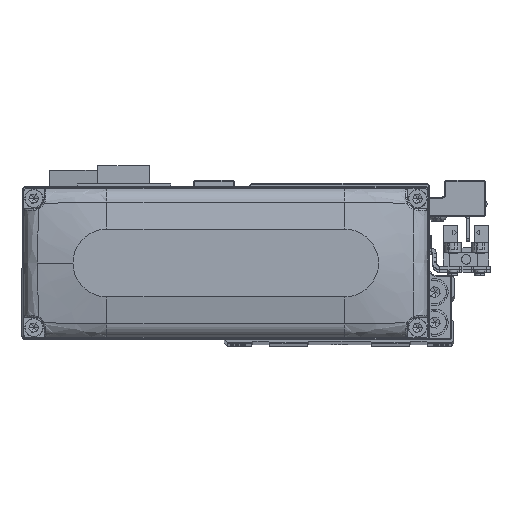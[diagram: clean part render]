
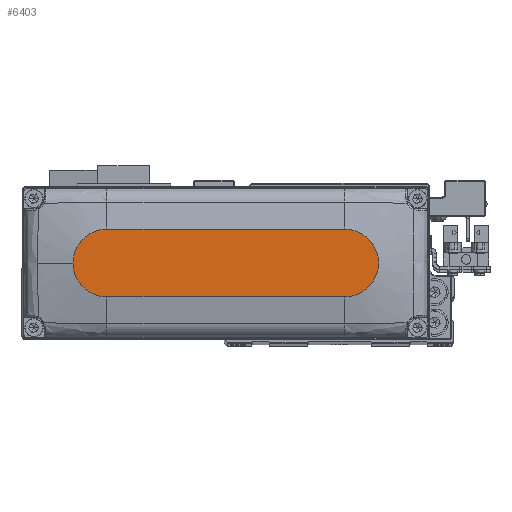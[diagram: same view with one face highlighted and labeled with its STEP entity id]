
A CAD part, top view. The second image highlights one B-rep face of the part: STEP entity #6403.
In plain terms, the highlighted planar face has unit normal (0, 0, 1).
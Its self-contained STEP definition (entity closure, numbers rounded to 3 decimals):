
#93 = LINE ( 'NONE', #12283, #4964 ) ;
#373 = CARTESIAN_POINT ( 'NONE',  ( 35., -10., 28. ) ) ;
#573 = VERTEX_POINT ( 'NONE', #14673 ) ;
#890 = DIRECTION ( 'NONE',  ( 0., 0., 1. ) ) ;
#1068 = CARTESIAN_POINT ( 'NONE',  ( 35., 10., 28. ) ) ;
#2312 = DIRECTION ( 'NONE',  ( -1., 0., 0. ) ) ;
#3176 = DIRECTION ( 'NONE',  ( 1., 0., 0. ) ) ;
#3889 = FACE_OUTER_BOUND ( 'NONE', #19053, .T. ) ;
#4964 = VECTOR ( 'NONE', #24453, 1000. ) ;
#6174 = ORIENTED_EDGE ( 'NONE', *, *, #6300, .T. ) ;
#6300 = EDGE_CURVE ( 'NONE', #573, #24294, #93, .T. ) ;
#6403 = ADVANCED_FACE ( 'NONE', ( #3889 ), #16065, .T. ) ;
#7586 = ORIENTED_EDGE ( 'NONE', *, *, #7850, .T. ) ;
#7850 = EDGE_CURVE ( 'NONE', #12424, #19610, #17487, .T. ) ;
#10588 = DIRECTION ( 'NONE',  ( 1., 0., 0. ) ) ;
#11119 = CARTESIAN_POINT ( 'NONE',  ( -35., 0., 28. ) ) ;
#11340 = AXIS2_PLACEMENT_3D ( 'NONE', #28227, #890, #13066 ) ;
#12283 = CARTESIAN_POINT ( 'NONE',  ( -35., -10., 28. ) ) ;
#12424 = VERTEX_POINT ( 'NONE', #1068 ) ;
#13066 = DIRECTION ( 'NONE',  ( 1., 0., 0. ) ) ;
#14673 = CARTESIAN_POINT ( 'NONE',  ( -35., -10., 28. ) ) ;
#15523 = AXIS2_PLACEMENT_3D ( 'NONE', #25762, #37912, #10588 ) ;
#16065 = PLANE ( 'NONE',  #11340 ) ;
#17131 = AXIS2_PLACEMENT_3D ( 'NONE', #18350, #30497, #3176 ) ;
#17241 = EDGE_CURVE ( 'NONE', #24294, #19639, #34290, .T. ) ;
#17487 = LINE ( 'NONE', #29635, #36886 ) ;
#17626 = ORIENTED_EDGE ( 'NONE', *, *, #25539, .T. ) ;
#17834 = AXIS2_PLACEMENT_3D ( 'NONE', #11119, #23284, #35431 ) ;
#18350 = CARTESIAN_POINT ( 'NONE',  ( 35., 0., 28. ) ) ;
#19053 = EDGE_LOOP ( 'NONE', ( #7586, #22226, #6174, #33129, #17626 ) ) ;
#19610 = VERTEX_POINT ( 'NONE', #28864 ) ;
#19639 = VERTEX_POINT ( 'NONE', #19900 ) ;
#19900 = CARTESIAN_POINT ( 'NONE',  ( 45., 0., 28. ) ) ;
#22226 = ORIENTED_EDGE ( 'NONE', *, *, #30367, .T. ) ;
#23284 = DIRECTION ( 'NONE',  ( 0., 0., 1. ) ) ;
#24294 = VERTEX_POINT ( 'NONE', #373 ) ;
#24453 = DIRECTION ( 'NONE',  ( 1., 0., 0. ) ) ;
#25539 = EDGE_CURVE ( 'NONE', #19639, #12424, #32699, .T. ) ;
#25762 = CARTESIAN_POINT ( 'NONE',  ( 35., 0., 28. ) ) ;
#28227 = CARTESIAN_POINT ( 'NONE',  ( 0., 0., 28. ) ) ;
#28864 = CARTESIAN_POINT ( 'NONE',  ( -35., 10., 28. ) ) ;
#29635 = CARTESIAN_POINT ( 'NONE',  ( -35., 10., 28. ) ) ;
#30367 = EDGE_CURVE ( 'NONE', #19610, #573, #34994, .T. ) ;
#30497 = DIRECTION ( 'NONE',  ( 0., 0., 1. ) ) ;
#32699 = CIRCLE ( 'NONE', #15523, 10. ) ;
#33129 = ORIENTED_EDGE ( 'NONE', *, *, #17241, .T. ) ;
#34290 = CIRCLE ( 'NONE', #17131, 10. ) ;
#34994 = CIRCLE ( 'NONE', #17834, 10. ) ;
#35431 = DIRECTION ( 'NONE',  ( 1., 0., 0. ) ) ;
#36886 = VECTOR ( 'NONE', #2312, 1000. ) ;
#37912 = DIRECTION ( 'NONE',  ( 0., 0., 1. ) ) ;
